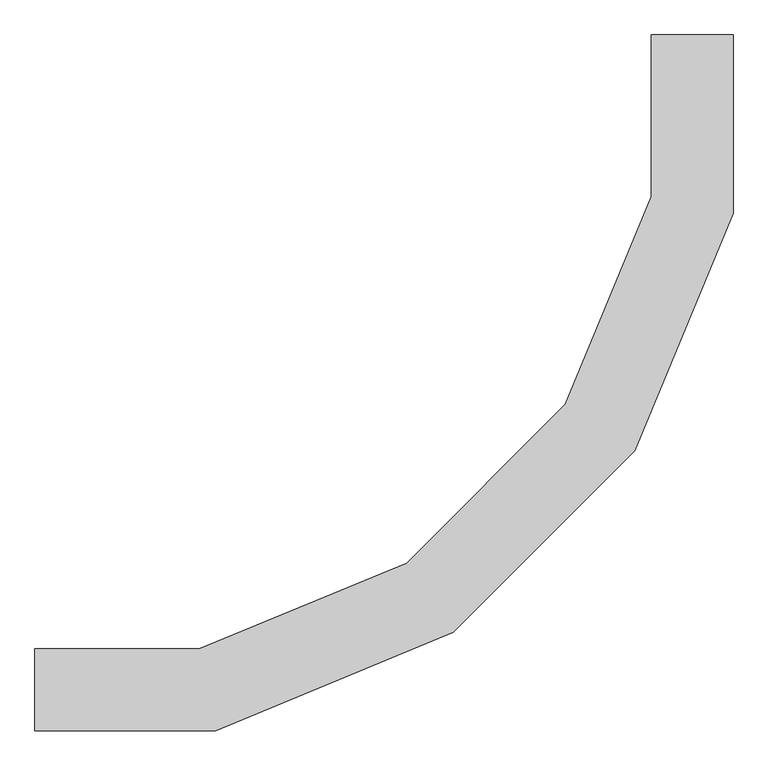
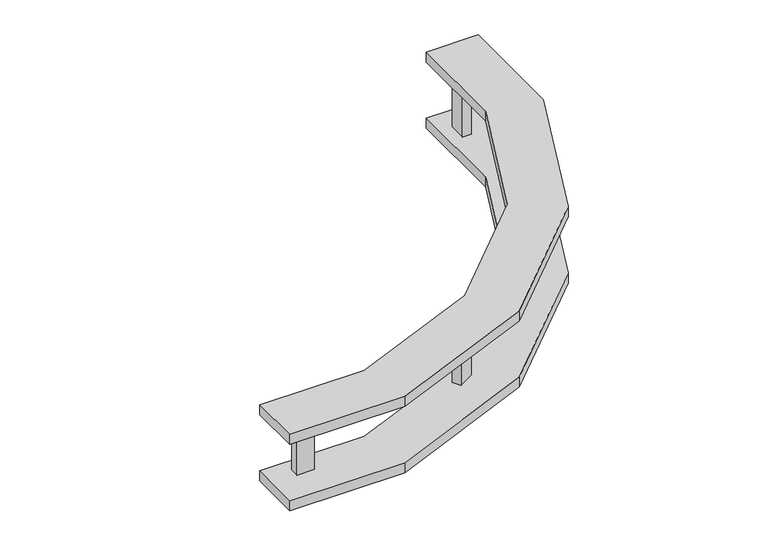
"""IFC4 building model written with IfcOpenShell, lengths in millimetres: cable carrier fitting geometry, Legrand_CableLadder_Swifts_Sapphire_OutsideRiser-13 : Hot Dip Galvanised (after manufacture)."""

import ifcopenshell
import ifcopenshell.guid

model = None  # the IFC model being written
_history = None  # IfcOwnerHistory: only IFC2X3 demands one
_inside = {}  # id of a spatial element -> (the spatial element, [elements in it])
_under = {}  # id of a project, library or spatial element -> (it, [spatial elements below it])
_declared = {}  # id of a project -> (the project, [libraries it declares])
_typed = {}  # id of a type object -> (the type object, [elements of that type])
_made_of = {}  # id of a material, layer set ... -> (it, [elements and type objects made of it])


def new_model(schema):
    """Start an empty IFC model of exactly this schema.

    Asked for "IFC4X3", IfcOpenShell would pick the latest addendum, in which some entities
    have other attributes; the version numbers below select the first issue.
    IFC2X3 requires an IfcOwnerHistory on every rooted entity: one is made here for all.
    """
    global model, _history
    if schema == "IFC4X3":
        model = ifcopenshell.file(schema_version=(4, 3, 0, 0))
    else:
        model = ifcopenshell.file(schema=schema)
    _inside.clear()
    _under.clear()
    _declared.clear()
    _typed.clear()
    _made_of.clear()
    _history = None
    if model.schema == "IFC2X3":
        org = make("IfcOrganization", Name="unknown")
        user = make(
            "IfcPersonAndOrganization",
            ThePerson=make("IfcPerson", FamilyName="unknown"),
            TheOrganization=org,
        )
        app = make(
            "IfcApplication",
            ApplicationDeveloper=org,
            Version="unknown",
            ApplicationFullName="unknown",
            ApplicationIdentifier="unknown",
        )
        _history = make(
            "IfcOwnerHistory",
            OwningUser=user,
            OwningApplication=app,
            ChangeAction="ADDED",
            CreationDate=0,
        )
    return model


def make(cls, **values):
    """One entity of the class cls with the attributes given. An attribute that is None is left unset."""
    return model.create_entity(
        cls, **{name: value for name, value in values.items() if value is not None}
    )


def rooted(cls, **values):
    """An entity with a GlobalId (a new one), such as an element, a storey or a relation."""
    return make(cls, GlobalId=ifcopenshell.guid.new(), OwnerHistory=_history, **values)


def si_unit(unit_type, name, prefix=None):
    """IfcSIUnit, for example si_unit("LENGTHUNIT", "METRE", prefix="MILLI")."""
    return make("IfcSIUnit", UnitType=unit_type, Prefix=prefix, Name=name)


def assignment(units):
    """IfcUnitAssignment: the units of a project."""
    return None if units is None else make("IfcUnitAssignment", Units=units)


def point(xyz):
    """IfcCartesianPoint."""
    return None if xyz is None else make("IfcCartesianPoint", Coordinates=xyz)


def direction(xyz):
    """IfcDirection."""
    return None if xyz is None else make("IfcDirection", DirectionRatios=xyz)


def frame(location, z_axis=None, x_axis=None):
    """IfcAxis2Placement3D, a coordinate frame: its origin and axes. An axis left out is left unset."""
    return make(
        "IfcAxis2Placement3D",
        Location=point(location),
        Axis=direction(z_axis),
        RefDirection=direction(x_axis),
    )


def origin():
    """The frame at (0, 0, 0) with its axes left unset."""
    return frame((0.0, 0.0, 0.0))


def place(relative_to, where):
    """IfcLocalPlacement: puts the frame where relative to a parent placement (None: the world)."""
    return make(
        "IfcLocalPlacement", PlacementRelTo=relative_to, RelativePlacement=where
    )


def context(
    kind, dimensions, precision=None, world=None, true_north=None, identifier=None
):
    """IfcGeometricRepresentationContext, for example the 3D "Model" context."""
    return make(
        "IfcGeometricRepresentationContext",
        ContextIdentifier=identifier,
        ContextType=kind,
        CoordinateSpaceDimension=dimensions,
        Precision=precision,
        WorldCoordinateSystem=world,
        TrueNorth=true_north,
    )


def project(units=None, contexts=None):
    """IfcProject with its units and contexts."""
    return rooted(
        "IfcProject",
        Name="project",
        RepresentationContexts=contexts,
        UnitsInContext=assignment(units),
    )


def spatial(cls, under=None, at=None, **own):
    """A site, building, storey or space (cls), placed at a placement, below another one or the project."""
    s = rooted(cls, ObjectPlacement=at, **own)
    if under is not None:
        _under.setdefault(under.id(), (under, []))[1].append(s)
    return s


def polyline(points):
    """IfcPolyline through the points."""
    return make("IfcPolyline", Points=[point(p) for p in points])


def outline(outer, holes=None, kind="AREA"):
    """IfcArbitraryClosedProfileDef: a profile drawn as a closed curve; with holes, ...WithVoids."""
    if holes is None:
        return make("IfcArbitraryClosedProfileDef", ProfileType=kind, OuterCurve=outer)
    return make(
        "IfcArbitraryProfileDefWithVoids",
        ProfileType=kind,
        OuterCurve=outer,
        InnerCurves=holes,
    )


def extrude(swept, where, along, depth):
    """IfcExtrudedAreaSolid: the profile swept, set in the frame where, extruded along a direction by depth."""
    return make(
        "IfcExtrudedAreaSolid",
        SweptArea=swept,
        Position=where,
        ExtrudedDirection=direction(along),
        Depth=depth,
    )


def shape(context_of_items, identifier, shape_type, items):
    """IfcShapeRepresentation: the items that make up one representation, for example the "Body"."""
    return make(
        "IfcShapeRepresentation",
        ContextOfItems=context_of_items,
        RepresentationIdentifier=identifier,
        RepresentationType=shape_type,
        Items=items,
    )


def source(mapping_origin, context_of_items, identifier, shape_type, items):
    """IfcRepresentationMap: a shape defined once, which mapped items show again and again."""
    return make(
        "IfcRepresentationMap",
        MappingOrigin=mapping_origin,
        MappedRepresentation=shape(context_of_items, identifier, shape_type, items),
    )


def transform(
    local_origin,
    x_axis=None,
    y_axis=None,
    z_axis=None,
    scale=None,
    scale2=None,
    scale3=None,
    uniform=True,
):
    """IfcCartesianTransformationOperator3D, or its non-uniform kind. x_axis, y_axis, z_axis: its Axis1, 2, 3."""
    if uniform:
        return make(
            "IfcCartesianTransformationOperator3D",
            Axis1=direction(x_axis),
            Axis2=direction(y_axis),
            LocalOrigin=point(local_origin),
            Scale=scale,
            Axis3=direction(z_axis),
        )
    return make(
        "IfcCartesianTransformationOperator3DnonUniform",
        Axis1=direction(x_axis),
        Axis2=direction(y_axis),
        LocalOrigin=point(local_origin),
        Scale=scale,
        Axis3=direction(z_axis),
        Scale2=scale2,
        Scale3=scale3,
    )


def mapped(mapping_source, mapping_target):
    """IfcMappedItem: shows the shape of a source again, moved by a transform."""
    return make(
        "IfcMappedItem", MappingSource=mapping_source, MappingTarget=mapping_target
    )


def made_of(thing, what):
    """Note that an element or type object is made of a material, layer set ...; save() writes the relation."""
    if what is not None:
        _made_of.setdefault(what.id(), (what, []))[1].append(thing)
    return thing


def element(
    cls,
    number,
    at=None,
    inside=None,
    cuts=None,
    type_object=None,
    material=None,
    context=None,
    identifier="Body",
    shape_type=None,
    held_by="IfcProductDefinitionShape",
    body=None,
    shapes=None,
    **own,
):
    """One element of the class cls, such as IfcWall. Its Tag is "e" and its number.

    at: its placement. inside: the storey or other place that contains it. cuts: it is an
    opening in that element (IfcRelVoidsElement). A single representation is given by context,
    identifier, shape_type and body (its items); several are given by shapes. held_by: the class
    of the entity that holds the representations. save() writes the other relations.
    """
    e = rooted(cls, Tag="e%d" % number, ObjectPlacement=at, **own)
    if body is not None:
        shapes = [shape(context, identifier, shape_type, body)]
    if shapes is not None:
        e.Representation = make(held_by, Representations=shapes)
    if inside is not None:
        _inside.setdefault(inside.id(), (inside, []))[1].append(e)
    if cuts is not None:
        rooted(
            "IfcRelVoidsElement", RelatingBuildingElement=cuts, RelatedOpeningElement=e
        )
    if type_object is not None:
        _typed.setdefault(type_object.id(), (type_object, []))[1].append(e)
    return made_of(e, material)


def aggregate(whole, parts):
    """IfcRelAggregates: a whole, such as a stair, and the parts it consists of."""
    return rooted("IfcRelAggregates", RelatingObject=whole, RelatedObjects=parts)


def save(model, path):
    """Write the relations noted so far, then the file.

    IfcRelAggregates (storeys below a building ...), IfcRelContainedInSpatialStructure (elements
    in a storey), IfcRelDefinesByType, IfcRelAssociatesMaterial and IfcRelDeclares: one each for
    every whole, place, type object, material and project.
    """
    for whole, parts in _under.values():
        aggregate(whole, parts)
    for where, things in _inside.values():
        rooted(
            "IfcRelContainedInSpatialStructure",
            RelatedElements=things,
            RelatingStructure=where,
        )
    for kind, things in _typed.values():
        rooted("IfcRelDefinesByType", RelatedObjects=things, RelatingType=kind)
    for what, things in _made_of.values():
        rooted("IfcRelAssociatesMaterial", RelatedObjects=things, RelatingMaterial=what)
    for by, libraries in _declared.values():
        rooted("IfcRelDeclares", RelatingContext=by, RelatedDefinitions=libraries)
    model.write(path)


def cable_carrier_fitting_62d549bb(model_context):
    return source(origin(), model_context, "Body", "SweptSolid", [
        extrude(outline(polyline([(-496.6865335, 140.773289), (-460.3134665, 161.773289), (-449.8134665, 143.5867555), (-486.1865335, 122.5867555), (-496.6865335, 140.773289)])), frame((0.0, 0.0, -71.5), z_axis=(0.0, 0.0, 1.0), x_axis=(1.0, 0.0, 0.0)), (0.0, 0.0, 1.0), 143.0),
        extrude(outline(polyline([(-161.773289, 460.3134665), (-140.773289, 496.6865335), (-122.5867555, 486.1865335), (-143.5867555, 449.8134665), (-161.773289, 460.3134665)])), frame((0.0, 0.0, -71.5), z_axis=(0.0, 0.0, 1.0), x_axis=(1.0, 0.0, 0.0)), (0.0, 0.0, 1.0), 143.0),
        extrude(outline(polyline([(-946.5, 31.5), (-904.5, 31.5), (-904.5, 10.5), (-946.5, 10.5), (-946.5, 31.5)])), frame((0.0, 0.0, -71.5), z_axis=(0.0, 0.0, 1.0), x_axis=(1.0, 0.0, 0.0)), (0.0, 0.0, 1.0), 143.0),
        extrude(outline(polyline([(-31.5, 904.5), (-31.5, 946.5), (-10.5, 946.5), (-10.5, 904.5), (-31.5, 904.5)])), frame((0.0, 0.0, -71.5), z_axis=(0.0, 0.0, 1.0), x_axis=(1.0, 0.0, 0.0)), (0.0, 0.0, 1.0), 143.0),
        extrude(outline(polyline([(-728.974581, -62.5), (-1005.5, -62.5), (-1005.5, 62.5), (-753.838627, 62.5), (-436.6497688, 193.8839269), (-193.8839269, 436.6497688), (-62.5, 753.838627), (-62.5, 1001.7), (62.5, 1001.7), (62.5, 728.974581), (-87.9140438, 365.8429566), (-365.8429566, 87.9140438), (-728.974581, -62.5)])), frame((0.0, 0.0, -97.0), z_axis=(0.0, 0.0, 1.0), x_axis=(1.0, 0.0, 0.0)), (0.0, 0.0, 1.0), 25.5),
        extrude(outline(polyline([(-1005.5, -62.5), (-1005.5, 62.5), (-753.838627, 62.5), (-436.6497688, 193.8839269), (-193.8839269, 436.6497688), (-62.5, 753.838627), (-62.5, 1001.7), (62.5, 1001.7), (62.5, 728.974581), (-87.9140438, 365.8429566), (-365.8429566, 87.9140438), (-728.974581, -62.5), (-1005.5, -62.5)])), frame((0.0, 0.0, 71.5), z_axis=(0.0, 0.0, 1.0), x_axis=(1.0, 0.0, 0.0)), (0.0, 0.0, 1.0), 25.5),
    ])


if __name__ == "__main__":
    model = new_model("IFC4")
    model_context = context("Model", 3, world=origin())
    ifc_project = project(units=[si_unit("LENGTHUNIT", "METRE", prefix="MILLI")], contexts=[model_context])
    site = spatial("IfcSite", under=ifc_project)
    building = spatial("IfcBuilding", under=site)
    placement = place(None, origin())
    cable_carrier_fitting_shape = cable_carrier_fitting_62d549bb(model_context)
    element("IfcCableCarrierFitting", 1, ObjectType="Legrand_CableLadder_Swifts_Sapphire_OutsideRiser-13 : Hot Dip Galvanised (after manufacture)", at=placement, inside=building, context=model_context, shape_type="MappedRepresentation", body=[
        mapped(cable_carrier_fitting_shape, transform((0.0, 0.0, 0.0), x_axis=(1.0, 0.0, 0.0), y_axis=(0.0, 1.0, 0.0), z_axis=(0.0, 0.0, 1.0))),
    ])
    save(model, "model.ifc")
